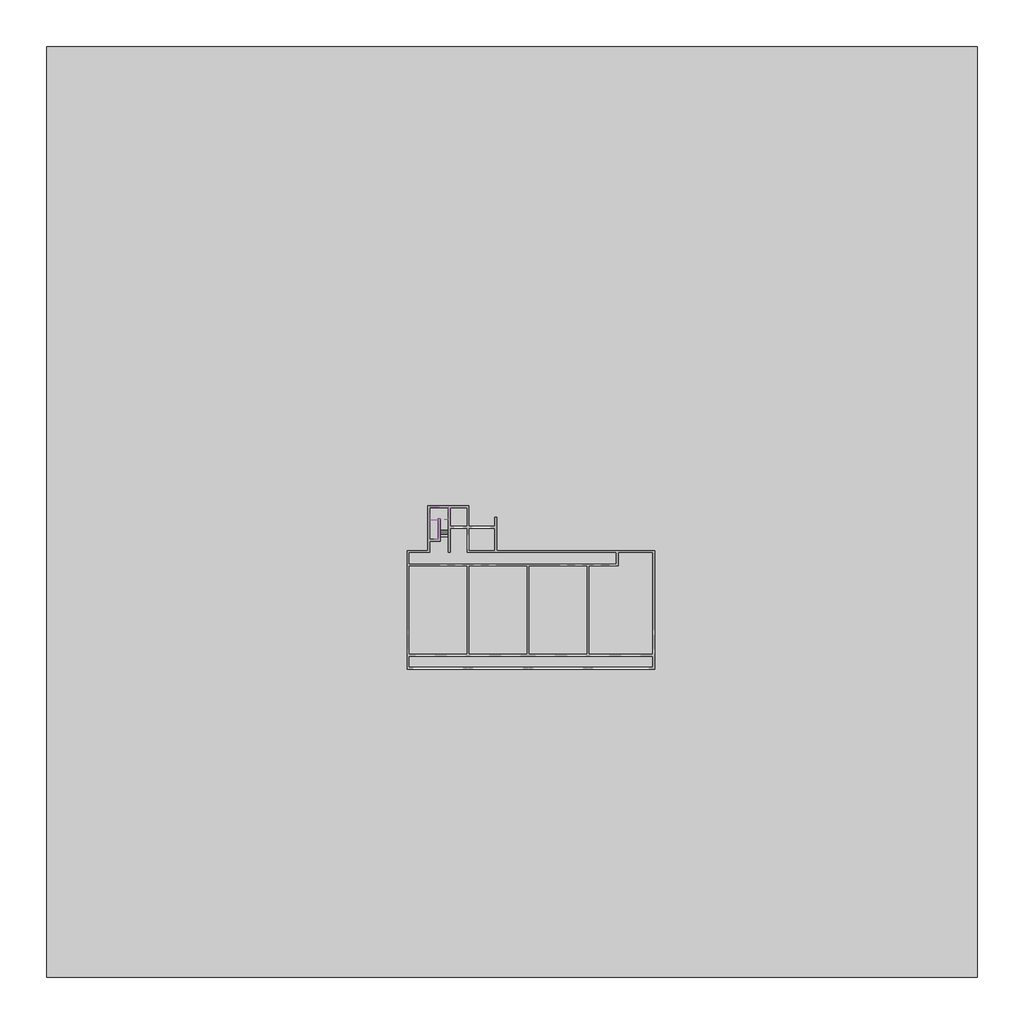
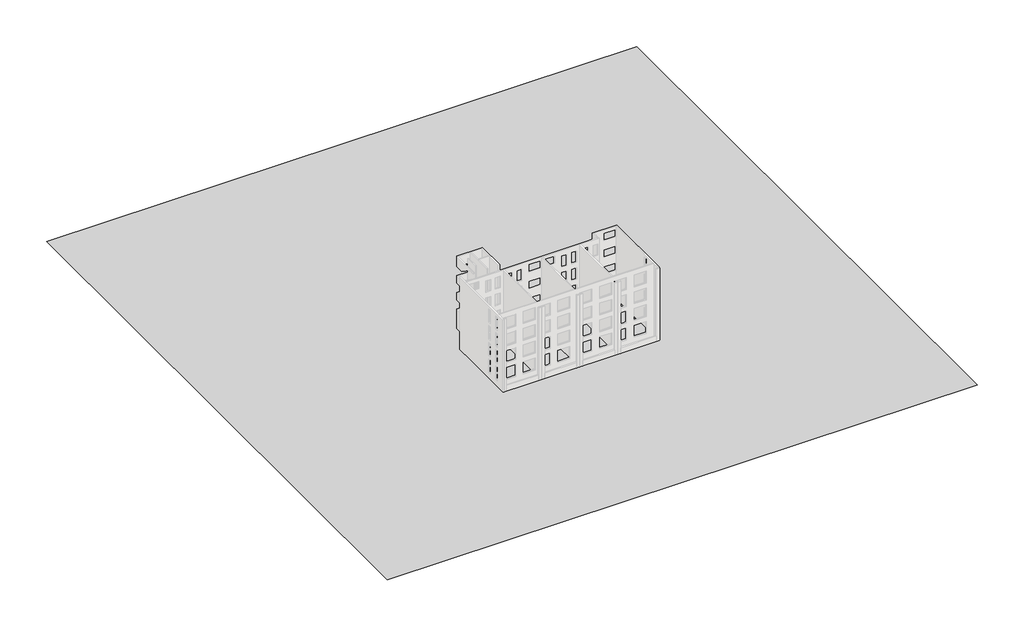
# One storey, part 5 of 5: 2 stair flights, 1 proxy, 1 slab.
"""IFC4 building model written with IfcOpenShell, lengths in millimetres."""

import ifcopenshell
import ifcopenshell.guid

model = None  # the IFC model being written
_history = None  # IfcOwnerHistory: only IFC2X3 demands one
_inside = {}  # id of a spatial element -> (the spatial element, [elements in it])
_under = {}  # id of a project, library or spatial element -> (it, [spatial elements below it])
_declared = {}  # id of a project -> (the project, [libraries it declares])
_typed = {}  # id of a type object -> (the type object, [elements of that type])
_made_of = {}  # id of a material, layer set ... -> (it, [elements and type objects made of it])


def new_model(schema):
    """Start an empty IFC model of exactly this schema.

    Asked for "IFC4X3", IfcOpenShell would pick the latest addendum, in which some entities
    have other attributes; the version numbers below select the first issue.
    IFC2X3 requires an IfcOwnerHistory on every rooted entity: one is made here for all.
    """
    global model, _history
    if schema == "IFC4X3":
        model = ifcopenshell.file(schema_version=(4, 3, 0, 0))
    else:
        model = ifcopenshell.file(schema=schema)
    _inside.clear()
    _under.clear()
    _declared.clear()
    _typed.clear()
    _made_of.clear()
    _history = None
    if model.schema == "IFC2X3":
        org = make("IfcOrganization", Name="unknown")
        user = make(
            "IfcPersonAndOrganization",
            ThePerson=make("IfcPerson", FamilyName="unknown"),
            TheOrganization=org,
        )
        app = make(
            "IfcApplication",
            ApplicationDeveloper=org,
            Version="unknown",
            ApplicationFullName="unknown",
            ApplicationIdentifier="unknown",
        )
        _history = make(
            "IfcOwnerHistory",
            OwningUser=user,
            OwningApplication=app,
            ChangeAction="ADDED",
            CreationDate=0,
        )
    return model


def make(cls, **values):
    """One entity of the class cls with the attributes given. An attribute that is None is left unset."""
    return model.create_entity(
        cls, **{name: value for name, value in values.items() if value is not None}
    )


def rooted(cls, **values):
    """An entity with a GlobalId (a new one), such as an element, a storey or a relation."""
    return make(cls, GlobalId=ifcopenshell.guid.new(), OwnerHistory=_history, **values)


def si_unit(unit_type, name, prefix=None):
    """IfcSIUnit, for example si_unit("LENGTHUNIT", "METRE", prefix="MILLI")."""
    return make("IfcSIUnit", UnitType=unit_type, Prefix=prefix, Name=name)


def assignment(units):
    """IfcUnitAssignment: the units of a project."""
    return None if units is None else make("IfcUnitAssignment", Units=units)


def point(xyz):
    """IfcCartesianPoint."""
    return None if xyz is None else make("IfcCartesianPoint", Coordinates=xyz)


def direction(xyz):
    """IfcDirection."""
    return None if xyz is None else make("IfcDirection", DirectionRatios=xyz)


def frame(location, z_axis=None, x_axis=None):
    """IfcAxis2Placement3D, a coordinate frame: its origin and axes. An axis left out is left unset."""
    return make(
        "IfcAxis2Placement3D",
        Location=point(location),
        Axis=direction(z_axis),
        RefDirection=direction(x_axis),
    )


def origin():
    """The frame at (0, 0, 0) with its axes left unset."""
    return frame((0.0, 0.0, 0.0))


def place(relative_to, where):
    """IfcLocalPlacement: puts the frame where relative to a parent placement (None: the world)."""
    return make(
        "IfcLocalPlacement", PlacementRelTo=relative_to, RelativePlacement=where
    )


def context(
    kind, dimensions, precision=None, world=None, true_north=None, identifier=None
):
    """IfcGeometricRepresentationContext, for example the 3D "Model" context."""
    return make(
        "IfcGeometricRepresentationContext",
        ContextIdentifier=identifier,
        ContextType=kind,
        CoordinateSpaceDimension=dimensions,
        Precision=precision,
        WorldCoordinateSystem=world,
        TrueNorth=true_north,
    )


def project(units=None, contexts=None):
    """IfcProject with its units and contexts."""
    return rooted(
        "IfcProject",
        Name="project",
        RepresentationContexts=contexts,
        UnitsInContext=assignment(units),
    )


def spatial(cls, under=None, at=None, **own):
    """A site, building, storey or space (cls), placed at a placement, below another one or the project."""
    s = rooted(cls, ObjectPlacement=at, **own)
    if under is not None:
        _under.setdefault(under.id(), (under, []))[1].append(s)
    return s


def polyline(points):
    """IfcPolyline through the points."""
    return make("IfcPolyline", Points=[point(p) for p in points])


def point_list(points):
    """IfcCartesianPointList2D or 3D."""
    cls = (
        "IfcCartesianPointList2D" if len(points[0]) == 2 else "IfcCartesianPointList3D"
    )
    return make(cls, CoordList=points)


def outline(outer, holes=None, kind="AREA"):
    """IfcArbitraryClosedProfileDef: a profile drawn as a closed curve; with holes, ...WithVoids."""
    if holes is None:
        return make("IfcArbitraryClosedProfileDef", ProfileType=kind, OuterCurve=outer)
    return make(
        "IfcArbitraryProfileDefWithVoids",
        ProfileType=kind,
        OuterCurve=outer,
        InnerCurves=holes,
    )


def extrude(swept, where, along, depth):
    """IfcExtrudedAreaSolid: the profile swept, set in the frame where, extruded along a direction by depth."""
    return make(
        "IfcExtrudedAreaSolid",
        SweptArea=swept,
        Position=where,
        ExtrudedDirection=direction(along),
        Depth=depth,
    )


def faces_of(points, faces, orient=None, outer=None):
    """IfcFace entities. A face is a list of loops; a loop is a list of indices into points, from 0.

    orient and outer hold one flag for each loop. By default every Orientation is true, the
    first loop of a face is its IfcFaceOuterBound and the others are IfcFaceBound.
    """
    made = []
    for i, loops in enumerate(faces):
        bounds = []
        for j, loop in enumerate(loops):
            is_outer = j == 0 if outer is None else outer[i][j]
            bounds.append(
                make(
                    "IfcFaceOuterBound" if is_outer else "IfcFaceBound",
                    Bound=make("IfcPolyLoop", Polygon=[points[k] for k in loop]),
                    Orientation=True if orient is None else orient[i][j],
                )
            )
        made.append(make("IfcFace", Bounds=bounds))
    return made


def faceted_brep(points, faces, orient=None, outer=None, voids=None):
    """IfcFacetedBrep: a solid bounded by flat faces; with voids (closed shells), ...WithVoids."""
    shared = [point(p) for p in points]
    hull = make("IfcClosedShell", CfsFaces=faces_of(shared, faces, orient, outer))
    if voids is None:
        return make("IfcFacetedBrep", Outer=hull)
    return make(
        "IfcFacetedBrepWithVoids",
        Outer=hull,
        Voids=[
            make(cls, CfsFaces=faces_of(shared, fs, o, b)) for cls, fs, o, b in voids
        ],
    )


def triangles(points, corners, closed=None, point_numbers=None):
    """IfcTriangulatedFaceSet: each triangle names its three corners, points numbered from 1."""
    return make(
        "IfcTriangulatedFaceSet",
        Coordinates=point_list(points),
        Closed=closed,
        CoordIndex=corners,
        PnIndex=point_numbers,
    )


def shape(context_of_items, identifier, shape_type, items):
    """IfcShapeRepresentation: the items that make up one representation, for example the "Body"."""
    return make(
        "IfcShapeRepresentation",
        ContextOfItems=context_of_items,
        RepresentationIdentifier=identifier,
        RepresentationType=shape_type,
        Items=items,
    )


def made_of(thing, what):
    """Note that an element or type object is made of a material, layer set ...; save() writes the relation."""
    if what is not None:
        _made_of.setdefault(what.id(), (what, []))[1].append(thing)
    return thing


def element(
    cls,
    number,
    at=None,
    inside=None,
    cuts=None,
    type_object=None,
    material=None,
    context=None,
    identifier="Body",
    shape_type=None,
    held_by="IfcProductDefinitionShape",
    body=None,
    shapes=None,
    **own,
):
    """One element of the class cls, such as IfcWall. Its Tag is "e" and its number.

    at: its placement. inside: the storey or other place that contains it. cuts: it is an
    opening in that element (IfcRelVoidsElement). A single representation is given by context,
    identifier, shape_type and body (its items); several are given by shapes. held_by: the class
    of the entity that holds the representations. save() writes the other relations.
    """
    e = rooted(cls, Tag="e%d" % number, ObjectPlacement=at, **own)
    if body is not None:
        shapes = [shape(context, identifier, shape_type, body)]
    if shapes is not None:
        e.Representation = make(held_by, Representations=shapes)
    if inside is not None:
        _inside.setdefault(inside.id(), (inside, []))[1].append(e)
    if cuts is not None:
        rooted(
            "IfcRelVoidsElement", RelatingBuildingElement=cuts, RelatedOpeningElement=e
        )
    if type_object is not None:
        _typed.setdefault(type_object.id(), (type_object, []))[1].append(e)
    return made_of(e, material)


def aggregate(whole, parts):
    """IfcRelAggregates: a whole, such as a stair, and the parts it consists of."""
    return rooted("IfcRelAggregates", RelatingObject=whole, RelatedObjects=parts)


def save(model, path):
    """Write the relations noted so far, then the file.

    IfcRelAggregates (storeys below a building ...), IfcRelContainedInSpatialStructure (elements
    in a storey), IfcRelDefinesByType, IfcRelAssociatesMaterial and IfcRelDeclares: one each for
    every whole, place, type object, material and project.
    """
    for whole, parts in _under.values():
        aggregate(whole, parts)
    for where, things in _inside.values():
        rooted(
            "IfcRelContainedInSpatialStructure",
            RelatedElements=things,
            RelatingStructure=where,
        )
    for kind, things in _typed.values():
        rooted("IfcRelDefinesByType", RelatedObjects=things, RelatingType=kind)
    for what, things in _made_of.values():
        rooted("IfcRelAssociatesMaterial", RelatedObjects=things, RelatingMaterial=what)
    for by, libraries in _declared.values():
        rooted("IfcRelDeclares", RelatingContext=by, RelatedDefinitions=libraries)
    model.write(path)


model = new_model("IFC4")

# Units and contexts
model_context = context("Model", 3, world=origin())
ifc_project = project(units=[si_unit("LENGTHUNIT", "METRE", prefix="MILLI")], contexts=[model_context])

# Site, building, storey
site = spatial("IfcSite", under=ifc_project)
building = spatial("IfcBuilding", under=site)
storey = spatial("IfcBuildingStorey", under=building, Name="設計GL", Elevation=0.0)

# Proxy
placement = place(None, origin())
element("IfcBuildingElementProxy", 1, Name="Building Element Proxy", at=placement, inside=storey, context=model_context, shape_type="Tessellation", body=[
    triangles([(-49999.9992188, 49999.9992188, 0.0), (49999.9992188, 49999.9992188, 0.0), (49999.9992188, -49999.9992188, 0.0), (-49999.9992188, -49999.9992188, 0.0)], [[1, 4, 3], [3, 2, 1]], closed=False),
])

# Slab
element("IfcSlab", 2, ObjectType="150 mm 厚さ", at=placement, inside=storey, context=model_context, shape_type="SolidModel", body=[
    faceted_brep([(-7728.7187246, -810.1171638, 2331.7647059), (-6828.7187246, -810.1171638, 2331.7647059), (-6828.7187246, -504.0198032, 2331.7647059), (-6828.7187246, 539.8828362, 2331.7647059), (-8828.7187246, 539.8828362, 2331.7647059), (-8828.7187246, -840.1171638, 2331.7647059), (-8828.7187246, -870.1171638, 2331.7647059), (-7928.7187246, -870.1171638, 2331.7647059), (-7928.7187246, -840.1171638, 2331.7647059), (-7928.7187246, -750.1171638, 2331.7647059), (-7728.7187246, -750.1171638, 2331.7647059), (-7728.7187246, -750.1171638, 2181.7647059), (-7728.7187246, -504.0198032, 2181.7647059), (-7728.7187246, -810.1171638, 1974.0063164), (-7728.7187246, -810.1171638, 2155.2941176), (-6828.7187246, -810.1171638, 2155.2941176), (-6828.7187246, -810.1171638, 1974.0063164), (-6828.7187246, -504.0198032, 2181.7647059), (-6828.7187246, 539.8828362, 2181.7647059), (-8828.7187246, -840.1171638, 2181.7647059), (-8828.7187246, -870.1171638, 2181.7647059), (-7928.7187246, -870.1171638, 2181.7647059), (-7928.7187246, -840.1171638, 2181.7647059), (-7928.7187246, -750.1171638, 2181.7647059), (-8828.7187246, 539.8828362, 2181.7647059)], [[[0, 1, 2, 3, 4, 5, 6, 7, 8, 9, 10]], [[0, 10, 11, 12, 13, 14]], [[1, 15, 16, 17, 18, 3, 2]], [[6, 5, 19, 20]], [[8, 7, 21, 22]], [[9, 8, 22, 23]], [[17, 12, 11, 23, 22, 21, 20, 19, 24, 18]], [[13, 12, 17, 16]], [[4, 3, 18, 24]], [[10, 9, 23, 11]], [[1, 0, 14, 13, 16, 15]], [[5, 4, 24, 19]], [[7, 6, 20, 21]]]),
    extrude(outline(polyline([(-7728.7187246, -840.1171638), (-7728.7187246, -750.1171638), (-7928.7187246, -750.1171638), (-7928.7187246, -840.1171638), (-7928.7187246, -870.1171638), (-8828.7187246, -870.1171638), (-8828.7187246, -840.1171638), (-8828.7187246, 539.8828362), (-6828.7187246, 539.8828362), (-6828.7187246, -840.1171638), (-7728.7187246, -840.1171638)])), frame((0.0, 0.0, 2331.7647059), z_axis=(0.0, 0.0, 1.0), x_axis=(1.0, 0.0, 0.0)), (0.0, 0.0, 1.0), 30.0),
])

# Stair flights
element("IfcStairFlight", 3, ObjectType="30 mm 踏み板 30 mm 蹴込み板", at=placement, inside=storey, context=model_context, shape_type="SolidModel", body=[
    faceted_brep([(-7728.7187246, -2370.1171638, 1096.4705882), (-7728.7187246, -2630.1171638, 1096.4705882), (-6828.7187246, -2630.1171638, 1096.4705882), (-6828.7187246, -2370.1171638, 1096.4705882), (-7728.7187246, -2370.1171638, 950.0), (-7728.7187246, -2630.1171638, 950.0), (-6828.7187246, -2630.1171638, 950.0), (-6828.7187246, -2370.1171638, 950.0), (-7728.7187246, -2110.1171638, 1272.9411765), (-7728.7187246, -2370.1171638, 1272.9411765), (-6828.7187246, -2370.1171638, 1272.9411765), (-6828.7187246, -2110.1171638, 1272.9411765), (-7728.7187246, -2110.1171638, 1091.6533752), (-7728.7187246, -2318.8198032, 950.0), (-6828.7187246, -2318.8198032, 950.0), (-6828.7187246, -2110.1171638, 1091.6533752), (-7728.7187246, -1850.1171638, 1449.4117647), (-7728.7187246, -2110.1171638, 1449.4117647), (-6828.7187246, -2110.1171638, 1449.4117647), (-6828.7187246, -1850.1171638, 1449.4117647), (-7728.7187246, -1850.1171638, 1268.1239634), (-6828.7187246, -1850.1171638, 1268.1239634), (-7728.7187246, -1590.1171638, 1625.8823529), (-7728.7187246, -1850.1171638, 1625.8823529), (-6828.7187246, -1850.1171638, 1625.8823529), (-6828.7187246, -1590.1171638, 1625.8823529), (-7728.7187246, -1590.1171638, 1444.5945517), (-6828.7187246, -1590.1171638, 1444.5945517), (-7728.7187246, -1330.1171638, 1802.3529412), (-7728.7187246, -1590.1171638, 1802.3529412), (-6828.7187246, -1590.1171638, 1802.3529412), (-6828.7187246, -1330.1171638, 1802.3529412), (-7728.7187246, -1330.1171638, 1621.0651399), (-6828.7187246, -1330.1171638, 1621.0651399), (-7728.7187246, -1070.1171638, 1978.8235294), (-7728.7187246, -1330.1171638, 1978.8235294), (-6828.7187246, -1330.1171638, 1978.8235294), (-6828.7187246, -1070.1171638, 1978.8235294), (-7728.7187246, -1070.1171638, 1797.5357281), (-6828.7187246, -1070.1171638, 1797.5357281), (-7728.7187246, -810.1171638, 2155.2941176), (-7728.7187246, -840.1171638, 2155.2941176), (-7728.7187246, -1070.1171638, 2155.2941176), (-6828.7187246, -1070.1171638, 2155.2941176), (-6828.7187246, -840.1171638, 2155.2941176), (-6828.7187246, -810.1171638, 2155.2941176), (-7728.7187246, -810.1171638, 1974.0063164), (-7728.7187246, -840.1171638, 1953.6443254), (-6828.7187246, -840.1171638, 1953.6443254), (-6828.7187246, -810.1171638, 1974.0063164)], [[[0, 1, 2, 3]], [[1, 0, 4, 5]], [[2, 1, 5, 6]], [[3, 2, 6, 7]], [[8, 9, 10, 11]], [[4, 0, 9, 8, 12, 13]], [[0, 3, 10, 9]], [[3, 7, 14, 15, 11, 10]], [[16, 17, 18, 19]], [[17, 16, 20, 12, 8]], [[8, 11, 18, 17]], [[19, 18, 11, 15, 21]], [[22, 23, 24, 25]], [[23, 22, 26, 20, 16]], [[16, 19, 24, 23]], [[25, 24, 19, 21, 27]], [[28, 29, 30, 31]], [[29, 28, 32, 26, 22]], [[22, 25, 30, 29]], [[31, 30, 25, 27, 33]], [[34, 35, 36, 37]], [[35, 34, 38, 32, 28]], [[28, 31, 36, 35]], [[37, 36, 31, 33, 39]], [[40, 41, 42, 43, 44, 45]], [[41, 40, 46, 47]], [[34, 37, 43, 42]], [[44, 43, 37, 39, 48]], [[40, 45, 49, 46]], [[5, 4, 13, 14, 7, 6]], [[14, 13, 12, 20, 26, 32, 38, 47, 46, 49, 48, 39, 33, 27, 21, 15]], [[45, 44, 48, 49]], [[42, 41, 47, 38, 34]]]),
    extrude(outline(polyline([(-7728.7187246, -2370.1171638), (-6828.7187246, -2370.1171638), (-6828.7187246, -2660.1171638), (-7728.7187246, -2660.1171638), (-7728.7187246, -2370.1171638)])), frame((0.0, 0.0, 1096.4705882), z_axis=(0.0, 0.0, 1.0), x_axis=(1.0, 0.0, 0.0)), (0.0, 0.0, 1.0), 30.0),
    extrude(outline(polyline([(-6828.7187246, -2630.1171638), (-6828.7187246, -2660.1171638), (-7728.7187246, -2660.1171638), (-7728.7187246, -2630.1171638), (-6828.7187246, -2630.1171638)])), frame((0.0, 0.0, 950.0), z_axis=(0.0, 0.0, 1.0), x_axis=(1.0, 0.0, 0.0)), (0.0, 0.0, 1.0), 146.4705882),
    extrude(outline(polyline([(-7728.7187246, -2110.1171638), (-6828.7187246, -2110.1171638), (-6828.7187246, -2400.1171638), (-7728.7187246, -2400.1171638), (-7728.7187246, -2110.1171638)])), frame((0.0, 0.0, 1272.9411765), z_axis=(0.0, 0.0, 1.0), x_axis=(1.0, 0.0, 0.0)), (0.0, 0.0, 1.0), 30.0),
    extrude(outline(polyline([(-6828.7187246, -2370.1171638), (-6828.7187246, -2400.1171638), (-7728.7187246, -2400.1171638), (-7728.7187246, -2370.1171638), (-6828.7187246, -2370.1171638)])), frame((0.0, 0.0, 1126.4705882), z_axis=(0.0, 0.0, 1.0), x_axis=(1.0, 0.0, 0.0)), (0.0, 0.0, 1.0), 146.4705882),
    extrude(outline(polyline([(-7728.7187246, -1850.1171638), (-6828.7187246, -1850.1171638), (-6828.7187246, -2140.1171638), (-7728.7187246, -2140.1171638), (-7728.7187246, -1850.1171638)])), frame((0.0, 0.0, 1449.4117647), z_axis=(0.0, 0.0, 1.0), x_axis=(1.0, 0.0, 0.0)), (0.0, 0.0, 1.0), 30.0),
    extrude(outline(polyline([(-6828.7187246, -2110.1171638), (-6828.7187246, -2140.1171638), (-7728.7187246, -2140.1171638), (-7728.7187246, -2110.1171638), (-6828.7187246, -2110.1171638)])), frame((0.0, 0.0, 1302.9411765), z_axis=(0.0, 0.0, 1.0), x_axis=(1.0, 0.0, 0.0)), (0.0, 0.0, 1.0), 146.4705882),
    extrude(outline(polyline([(-7728.7187246, -1590.1171638), (-6828.7187246, -1590.1171638), (-6828.7187246, -1880.1171638), (-7728.7187246, -1880.1171638), (-7728.7187246, -1590.1171638)])), frame((0.0, 0.0, 1625.8823529), z_axis=(0.0, 0.0, 1.0), x_axis=(1.0, 0.0, 0.0)), (0.0, 0.0, 1.0), 30.0),
    extrude(outline(polyline([(-6828.7187246, -1850.1171638), (-6828.7187246, -1880.1171638), (-7728.7187246, -1880.1171638), (-7728.7187246, -1850.1171638), (-6828.7187246, -1850.1171638)])), frame((0.0, 0.0, 1479.4117647), z_axis=(0.0, 0.0, 1.0), x_axis=(1.0, 0.0, 0.0)), (0.0, 0.0, 1.0), 146.4705882),
    extrude(outline(polyline([(-7728.7187246, -1330.1171638), (-6828.7187246, -1330.1171638), (-6828.7187246, -1620.1171638), (-7728.7187246, -1620.1171638), (-7728.7187246, -1330.1171638)])), frame((0.0, 0.0, 1802.3529412), z_axis=(0.0, 0.0, 1.0), x_axis=(1.0, 0.0, 0.0)), (0.0, 0.0, 1.0), 30.0),
    extrude(outline(polyline([(-6828.7187246, -1590.1171638), (-6828.7187246, -1620.1171638), (-7728.7187246, -1620.1171638), (-7728.7187246, -1590.1171638), (-6828.7187246, -1590.1171638)])), frame((0.0, 0.0, 1655.8823529), z_axis=(0.0, 0.0, 1.0), x_axis=(1.0, 0.0, 0.0)), (0.0, 0.0, 1.0), 146.4705882),
    extrude(outline(polyline([(-7728.7187246, -1070.1171638), (-6828.7187246, -1070.1171638), (-6828.7187246, -1360.1171638), (-7728.7187246, -1360.1171638), (-7728.7187246, -1070.1171638)])), frame((0.0, 0.0, 1978.8235294), z_axis=(0.0, 0.0, 1.0), x_axis=(1.0, 0.0, 0.0)), (0.0, 0.0, 1.0), 30.0),
    extrude(outline(polyline([(-6828.7187246, -1330.1171638), (-6828.7187246, -1360.1171638), (-7728.7187246, -1360.1171638), (-7728.7187246, -1330.1171638), (-6828.7187246, -1330.1171638)])), frame((0.0, 0.0, 1832.3529412), z_axis=(0.0, 0.0, 1.0), x_axis=(1.0, 0.0, 0.0)), (0.0, 0.0, 1.0), 146.4705882),
    extrude(outline(polyline([(-7728.7187246, -810.1171638), (-6828.7187246, -810.1171638), (-6828.7187246, -840.1171638), (-6828.7187246, -1100.1171638), (-7728.7187246, -1100.1171638), (-7728.7187246, -840.1171638), (-7728.7187246, -810.1171638)])), frame((0.0, 0.0, 2155.2941176), z_axis=(0.0, 0.0, 1.0), x_axis=(1.0, 0.0, 0.0)), (0.0, 0.0, 1.0), 30.0),
    extrude(outline(polyline([(-6828.7187246, -1070.1171638), (-6828.7187246, -1100.1171638), (-7728.7187246, -1100.1171638), (-7728.7187246, -1070.1171638), (-6828.7187246, -1070.1171638)])), frame((0.0, 0.0, 2008.8235294), z_axis=(0.0, 0.0, 1.0), x_axis=(1.0, 0.0, 0.0)), (0.0, 0.0, 1.0), 146.4705882),
    extrude(outline(polyline([(-6828.7187246, -810.1171638), (-6828.7187246, -840.1171638), (-7728.7187246, -840.1171638), (-7728.7187246, -810.1171638), (-6828.7187246, -810.1171638)])), frame((0.0, 0.0, 2185.2941176), z_axis=(0.0, 0.0, 1.0), x_axis=(1.0, 0.0, 0.0)), (0.0, 0.0, 1.0), 146.4705882),
])
element("IfcStairFlight", 4, ObjectType="30 mm 踏み板 30 mm 蹴込み板", at=placement, inside=storey, context=model_context, shape_type="SolidModel", body=[
    faceted_brep([(-7928.7187246, -870.1171638, 2508.2352941), (-8828.7187246, -870.1171638, 2508.2352941), (-8828.7187246, -916.2145243, 2508.2352941), (-8828.7187246, -1130.1171638, 2508.2352941), (-7928.7187246, -1130.1171638, 2508.2352941), (-7928.7187246, -916.2145243, 2508.2352941), (-7928.7187246, -1130.1171638, 2326.9474929), (-7928.7187246, -916.2145243, 2181.7647059), (-7928.7187246, -870.1171638, 2181.7647059), (-7928.7187246, -870.1171638, 2331.7647059), (-8828.7187246, -870.1171638, 2181.7647059), (-8828.7187246, -870.1171638, 2331.7647059), (-8828.7187246, -916.2145243, 2181.7647059), (-8828.7187246, -1130.1171638, 2326.9474929), (-7928.7187246, -1390.1171638, 2684.7058824), (-7928.7187246, -1130.1171638, 2684.7058824), (-8828.7187246, -1130.1171638, 2684.7058824), (-8828.7187246, -1390.1171638, 2684.7058824), (-7928.7187246, -1390.1171638, 2503.4180811), (-8828.7187246, -1390.1171638, 2503.4180811), (-7928.7187246, -1650.1171638, 2861.1764706), (-7928.7187246, -1390.1171638, 2861.1764706), (-8828.7187246, -1390.1171638, 2861.1764706), (-8828.7187246, -1650.1171638, 2861.1764706), (-7928.7187246, -1650.1171638, 2679.8886693), (-8828.7187246, -1650.1171638, 2679.8886693), (-7928.7187246, -1910.1171638, 3037.6470588), (-7928.7187246, -1650.1171638, 3037.6470588), (-8828.7187246, -1650.1171638, 3037.6470588), (-8828.7187246, -1910.1171638, 3037.6470588), (-7928.7187246, -1910.1171638, 2856.3592576), (-8828.7187246, -1910.1171638, 2856.3592576), (-7928.7187246, -2170.1171638, 3214.1176471), (-7928.7187246, -1910.1171638, 3214.1176471), (-8828.7187246, -1910.1171638, 3214.1176471), (-8828.7187246, -2170.1171638, 3214.1176471), (-7928.7187246, -2170.1171638, 3032.8298458), (-8828.7187246, -2170.1171638, 3032.8298458), (-7928.7187246, -2430.1171638, 3390.5882353), (-7928.7187246, -2170.1171638, 3390.5882353), (-8828.7187246, -2170.1171638, 3390.5882353), (-8828.7187246, -2430.1171638, 3390.5882353), (-7928.7187246, -2430.1171638, 3209.300434), (-8828.7187246, -2430.1171638, 3209.300434), (-7928.7187246, -2690.1171638, 3567.0588235), (-7928.7187246, -2430.1171638, 3567.0588235), (-8828.7187246, -2430.1171638, 3567.0588235), (-8828.7187246, -2690.1171638, 3567.0588235), (-7928.7187246, -2690.1171638, 3385.7710223), (-8828.7187246, -2690.1171638, 3385.7710223), (-7928.7187246, -2950.1171638, 3743.5294118), (-7928.7187246, -2690.1171638, 3743.5294118), (-8828.7187246, -2690.1171638, 3743.5294118), (-8828.7187246, -2950.1171638, 3743.5294118), (-7928.7187246, -2950.1171638, 3562.2416105), (-8828.7187246, -2950.1171638, 3562.2416105)], [[[0, 1, 2, 3, 4, 5]], [[4, 6, 7, 8, 9, 0, 5]], [[1, 0, 9, 8, 10, 11]], [[1, 11, 10, 12, 13, 3, 2]], [[14, 15, 16, 17]], [[15, 14, 18, 6, 4]], [[16, 15, 4, 3]], [[17, 16, 3, 13, 19]], [[20, 21, 22, 23]], [[21, 20, 24, 18, 14]], [[22, 21, 14, 17]], [[23, 22, 17, 19, 25]], [[26, 27, 28, 29]], [[27, 26, 30, 24, 20]], [[28, 27, 20, 23]], [[29, 28, 23, 25, 31]], [[32, 33, 34, 35]], [[33, 32, 36, 30, 26]], [[34, 33, 26, 29]], [[35, 34, 29, 31, 37]], [[38, 39, 40, 41]], [[39, 38, 42, 36, 32]], [[40, 39, 32, 35]], [[41, 40, 35, 37, 43]], [[44, 45, 46, 47]], [[45, 44, 48, 42, 38]], [[46, 45, 38, 41]], [[47, 46, 41, 43, 49]], [[50, 51, 52, 53]], [[51, 50, 54, 48, 44]], [[52, 51, 44, 47]], [[53, 52, 47, 49, 55]], [[50, 53, 55, 54]], [[12, 7, 6, 18, 24, 30, 36, 42, 48, 54, 55, 49, 43, 37, 31, 25, 19, 13]], [[7, 12, 10, 8]]]),
    extrude(outline(polyline([(-7928.7187246, -1130.1171638), (-8828.7187246, -1130.1171638), (-8828.7187246, -840.1171638), (-7928.7187246, -840.1171638), (-7928.7187246, -1130.1171638)])), frame((0.0, 0.0, 2508.2352941), z_axis=(0.0, 0.0, 1.0), x_axis=(1.0, 0.0, 0.0)), (0.0, 0.0, 1.0), 30.0),
    extrude(outline(polyline([(-8828.7187246, -870.1171638), (-8828.7187246, -840.1171638), (-7928.7187246, -840.1171638), (-7928.7187246, -870.1171638), (-8828.7187246, -870.1171638)])), frame((0.0, 0.0, 2361.7647059), z_axis=(0.0, 0.0, 1.0), x_axis=(1.0, 0.0, 0.0)), (0.0, 0.0, 1.0), 146.4705882),
    extrude(outline(polyline([(-7928.7187246, -1390.1171638), (-8828.7187246, -1390.1171638), (-8828.7187246, -1100.1171638), (-7928.7187246, -1100.1171638), (-7928.7187246, -1390.1171638)])), frame((0.0, 0.0, 2684.7058824), z_axis=(0.0, 0.0, 1.0), x_axis=(1.0, 0.0, 0.0)), (0.0, 0.0, 1.0), 30.0),
    extrude(outline(polyline([(-8828.7187246, -1130.1171638), (-8828.7187246, -1100.1171638), (-7928.7187246, -1100.1171638), (-7928.7187246, -1130.1171638), (-8828.7187246, -1130.1171638)])), frame((0.0, 0.0, 2538.2352941), z_axis=(0.0, 0.0, 1.0), x_axis=(1.0, 0.0, 0.0)), (0.0, 0.0, 1.0), 146.4705882),
    extrude(outline(polyline([(-7928.7187246, -1650.1171638), (-8828.7187246, -1650.1171638), (-8828.7187246, -1360.1171638), (-7928.7187246, -1360.1171638), (-7928.7187246, -1650.1171638)])), frame((0.0, 0.0, 2861.1764706), z_axis=(0.0, 0.0, 1.0), x_axis=(1.0, 0.0, 0.0)), (0.0, 0.0, 1.0), 30.0),
    extrude(outline(polyline([(-8828.7187246, -1390.1171638), (-8828.7187246, -1360.1171638), (-7928.7187246, -1360.1171638), (-7928.7187246, -1390.1171638), (-8828.7187246, -1390.1171638)])), frame((0.0, 0.0, 2714.7058824), z_axis=(0.0, 0.0, 1.0), x_axis=(1.0, 0.0, 0.0)), (0.0, 0.0, 1.0), 146.4705882),
    extrude(outline(polyline([(-7928.7187246, -1910.1171638), (-8828.7187246, -1910.1171638), (-8828.7187246, -1620.1171638), (-7928.7187246, -1620.1171638), (-7928.7187246, -1910.1171638)])), frame((0.0, 0.0, 3037.6470588), z_axis=(0.0, 0.0, 1.0), x_axis=(1.0, 0.0, 0.0)), (0.0, 0.0, 1.0), 30.0),
    extrude(outline(polyline([(-8828.7187246, -1650.1171638), (-8828.7187246, -1620.1171638), (-7928.7187246, -1620.1171638), (-7928.7187246, -1650.1171638), (-8828.7187246, -1650.1171638)])), frame((0.0, 0.0, 2891.1764706), z_axis=(0.0, 0.0, 1.0), x_axis=(1.0, 0.0, 0.0)), (0.0, 0.0, 1.0), 146.4705882),
    extrude(outline(polyline([(-7928.7187246, -2170.1171638), (-8828.7187246, -2170.1171638), (-8828.7187246, -1880.1171638), (-7928.7187246, -1880.1171638), (-7928.7187246, -2170.1171638)])), frame((0.0, 0.0, 3214.1176471), z_axis=(0.0, 0.0, 1.0), x_axis=(1.0, 0.0, 0.0)), (0.0, 0.0, 1.0), 30.0),
    extrude(outline(polyline([(-8828.7187246, -1910.1171638), (-8828.7187246, -1880.1171638), (-7928.7187246, -1880.1171638), (-7928.7187246, -1910.1171638), (-8828.7187246, -1910.1171638)])), frame((0.0, 0.0, 3067.6470588), z_axis=(0.0, 0.0, 1.0), x_axis=(1.0, 0.0, 0.0)), (0.0, 0.0, 1.0), 146.4705882),
    extrude(outline(polyline([(-7928.7187246, -2430.1171638), (-8828.7187246, -2430.1171638), (-8828.7187246, -2140.1171638), (-7928.7187246, -2140.1171638), (-7928.7187246, -2430.1171638)])), frame((0.0, 0.0, 3390.5882353), z_axis=(0.0, 0.0, 1.0), x_axis=(1.0, 0.0, 0.0)), (0.0, 0.0, 1.0), 30.0),
    extrude(outline(polyline([(-8828.7187246, -2170.1171638), (-8828.7187246, -2140.1171638), (-7928.7187246, -2140.1171638), (-7928.7187246, -2170.1171638), (-8828.7187246, -2170.1171638)])), frame((0.0, 0.0, 3244.1176471), z_axis=(0.0, 0.0, 1.0), x_axis=(1.0, 0.0, 0.0)), (0.0, 0.0, 1.0), 146.4705882),
    extrude(outline(polyline([(-7928.7187246, -2690.1171638), (-8828.7187246, -2690.1171638), (-8828.7187246, -2400.1171638), (-7928.7187246, -2400.1171638), (-7928.7187246, -2690.1171638)])), frame((0.0, 0.0, 3567.0588235), z_axis=(0.0, 0.0, 1.0), x_axis=(1.0, 0.0, 0.0)), (0.0, 0.0, 1.0), 30.0),
    extrude(outline(polyline([(-8828.7187246, -2430.1171638), (-8828.7187246, -2400.1171638), (-7928.7187246, -2400.1171638), (-7928.7187246, -2430.1171638), (-8828.7187246, -2430.1171638)])), frame((0.0, 0.0, 3420.5882353), z_axis=(0.0, 0.0, 1.0), x_axis=(1.0, 0.0, 0.0)), (0.0, 0.0, 1.0), 146.4705882),
    extrude(outline(polyline([(-7928.7187246, -2950.1171638), (-8828.7187246, -2950.1171638), (-8828.7187246, -2660.1171638), (-7928.7187246, -2660.1171638), (-7928.7187246, -2950.1171638)])), frame((0.0, 0.0, 3743.5294118), z_axis=(0.0, 0.0, 1.0), x_axis=(1.0, 0.0, 0.0)), (0.0, 0.0, 1.0), 30.0),
    extrude(outline(polyline([(-8828.7187246, -2690.1171638), (-8828.7187246, -2660.1171638), (-7928.7187246, -2660.1171638), (-7928.7187246, -2690.1171638), (-8828.7187246, -2690.1171638)])), frame((0.0, 0.0, 3597.0588235), z_axis=(0.0, 0.0, 1.0), x_axis=(1.0, 0.0, 0.0)), (0.0, 0.0, 1.0), 146.4705882),
    extrude(outline(polyline([(-8828.7187246, -2950.1171638), (-8828.7187246, -2920.1171638), (-7928.7187246, -2920.1171638), (-7928.7187246, -2950.1171638), (-8828.7187246, -2950.1171638)])), frame((0.0, 0.0, 3773.5294118), z_axis=(0.0, 0.0, 1.0), x_axis=(1.0, 0.0, 0.0)), (0.0, 0.0, 1.0), 146.4705882),
])

save(model, "model.ifc")
